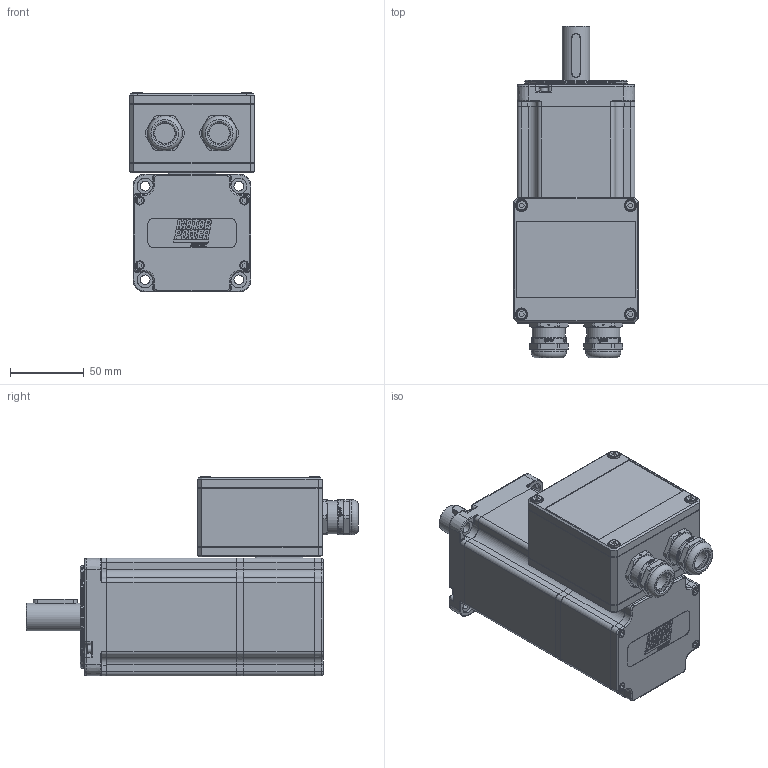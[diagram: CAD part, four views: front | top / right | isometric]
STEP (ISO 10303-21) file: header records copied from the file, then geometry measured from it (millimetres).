
FILE_DESCRIPTION(/* description */ ('Unknown'),/* implementation_level */ '2;1');
FILE_NAME(/* name */ 'TC4-80.3B LV M1 MORS Q0C152',/* time_stamp */ '2026-06-09T14:28:57+02:00',/* author */ ('Unknown'),/* organization */ ('Unknown'),/* preprocessor_version */ 'ST-DEVELOPER v19.4',/* originating_system */ 'Solid Edge',/* authorisation */ 'Unknown');
FILE_SCHEMA (('AUTOMOTIVE_DESIGN {1 0 10303 214 3 1 1}'));
Products named in the file (24): Q0C152 3B M1 VUOTO; 005119001500; 003155002220; 003103040148; 003107003286; 003755100351; 007303000110; 005911000494; 005911000420; 005603000170; 005603000170_Gland; 005603000170_Nut; 005603000170_Clamping insert; 005603000170_Sealing insert; 005603000170_O Ring; 007303000700; 003251040719; 005911000495; 003151003188; 003110000130; 005911000550; 003799004095; Albero TC4 80 H38 A19 LV; 005113000500
Assembly tree (37 placements, depth 3):
  Q0C152 3B M1 VUOTO
    005119001500
    003155002220
    003103040148
    003107003286
    003755100351
    007303000110  x2
    005911000494  x4
    005911000420  x4
    005603000170  x2
      005603000170_Gland
      005603000170_Nut
      005603000170_Clamping insert
      005603000170_Sealing insert
      005603000170_O Ring
    007303000700
    003251040719
    005911000495  x4
    003151003188
    003110000130
    005911000550  x4
    003799004095
    Albero TC4 80 H38 A19 LV
    005113000500
Bounding box: 85.23 x 225.69 x 135.71 mm (x, y, z)
Volume: 510508.2 mm3; surface area: 266620.3 mm2
Topology: 42 solids, 42 shells, 3166 faces, 8104 edges, 5213 vertices
Faces by surface type: plane 1912, cylinder 621, bspline 237, cone 220, torus 176
Full cylindrical faces by diameter (mm): 1 x8, 2.459 x22, 2.5 x1, 3 x8, 3.2 x1, 3.242 x4, 3.3 x4, 3.5 x20, 4 x8, 4.5 x4, 4.917 x1, 5 x8, 5.15 x8, 5.5 x8, 6 x8, 6.4 x1, 6.6 x4, 7 x12, 8 x4, 11 x4, 14 x2, 14.2 x2, 14.3 x2, 15 x2, 16.1 x4, 18.4 x4, 19 x2, 19.2 x4, 19.99 x1, 20 x2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
Entity records: 87769 total; most frequent: CARTESIAN_POINT 20391, ORIENTED_EDGE 11370, DIRECTION 10948, EDGE_CURVE 5685, AXIS2_PLACEMENT_3D 3862, VERTEX_POINT 3820, LINE 3224, VECTOR 3224
